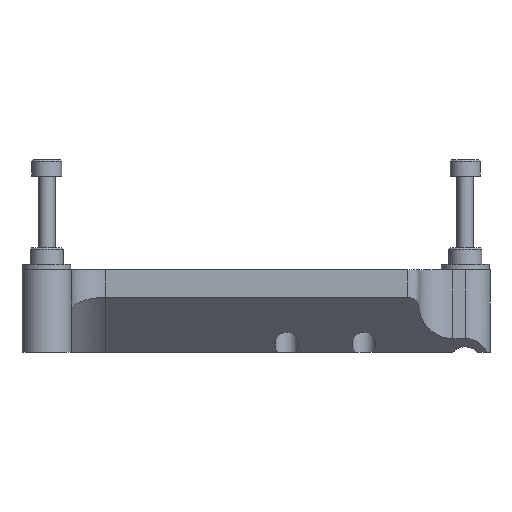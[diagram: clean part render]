
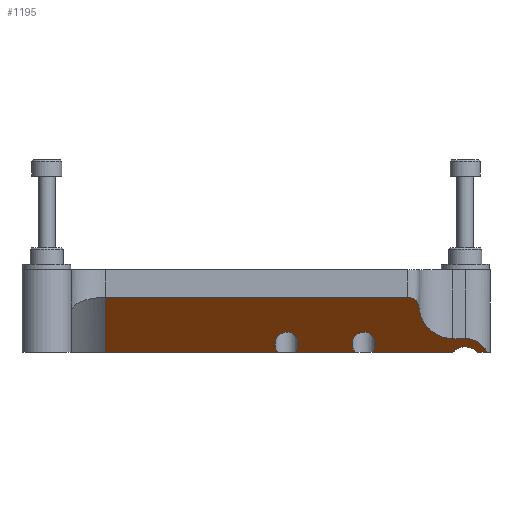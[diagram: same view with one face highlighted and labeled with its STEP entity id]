
A CAD part, left-side view. The second image highlights one B-rep face of the part: STEP entity #1195.
In plain terms, the highlighted planar face has unit normal (-0.707, 0, -0.707).
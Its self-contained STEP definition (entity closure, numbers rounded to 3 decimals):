
#537=ELLIPSE('',#8333,6.364,4.5);
#539=ELLIPSE('',#8360,3.041,2.15);
#540=ELLIPSE('',#8361,3.041,2.15);
#541=ELLIPSE('',#8362,4.243,3.);
#542=ELLIPSE('',#8363,8.768,6.2);
#543=ELLIPSE('',#8364,2.828,2.);
#764=FACE_OUTER_BOUND('',#3706,.T.);
#1195=ADVANCED_FACE('',(#764),#1619,.T.);
#1619=PLANE('',#8365);
#2065=LINE('',#11511,#2798);
#2066=LINE('',#11514,#2799);
#2067=LINE('',#11516,#2800);
#2068=LINE('',#11520,#2801);
#2069=LINE('',#11524,#2802);
#2070=LINE('',#11528,#2803);
#2071=LINE('',#11529,#2804);
#2798=VECTOR('',#9101,1.);
#2799=VECTOR('',#9102,1.);
#2800=VECTOR('',#9103,1.);
#2801=VECTOR('',#9106,1.);
#2802=VECTOR('',#9109,1.);
#2803=VECTOR('',#9112,1.);
#2804=VECTOR('',#9113,1.);
#3706=EDGE_LOOP('',(#4606,#4607,#4608,#4609,#4610,#4611,#4612,#4613,#4614,
#4615,#4616,#4617,#4618));
#4606=ORIENTED_EDGE('',*,*,#7461,.T.);
#4607=ORIENTED_EDGE('',*,*,#7462,.T.);
#4608=ORIENTED_EDGE('',*,*,#7463,.T.);
#4609=ORIENTED_EDGE('',*,*,#7464,.T.);
#4610=ORIENTED_EDGE('',*,*,#7465,.T.);
#4611=ORIENTED_EDGE('',*,*,#7466,.T.);
#4612=ORIENTED_EDGE('',*,*,#7467,.T.);
#4613=ORIENTED_EDGE('',*,*,#7468,.T.);
#4614=ORIENTED_EDGE('',*,*,#7469,.T.);
#4615=ORIENTED_EDGE('',*,*,#7159,.T.);
#4616=ORIENTED_EDGE('',*,*,#7470,.T.);
#4617=ORIENTED_EDGE('',*,*,#7471,.T.);
#4618=ORIENTED_EDGE('',*,*,#7472,.T.);
#6393=VERTEX_POINT('',#10593);
#6394=VERTEX_POINT('',#10595);
#6692=VERTEX_POINT('',#11512);
#6693=VERTEX_POINT('',#11513);
#6694=VERTEX_POINT('',#11515);
#6695=VERTEX_POINT('',#11517);
#6696=VERTEX_POINT('',#11519);
#6697=VERTEX_POINT('',#11521);
#6698=VERTEX_POINT('',#11523);
#6699=VERTEX_POINT('',#11525);
#6700=VERTEX_POINT('',#11527);
#6701=VERTEX_POINT('',#11530);
#6702=VERTEX_POINT('',#11532);
#7159=EDGE_CURVE('',#6394,#6393,#537,.T.);
#7461=EDGE_CURVE('',#6692,#6693,#2065,.T.);
#7462=EDGE_CURVE('',#6693,#6694,#2066,.T.);
#7463=EDGE_CURVE('',#6694,#6695,#2067,.T.);
#7464=EDGE_CURVE('',#6695,#6696,#539,.T.);
#7465=EDGE_CURVE('',#6696,#6697,#2068,.T.);
#7466=EDGE_CURVE('',#6697,#6698,#540,.T.);
#7467=EDGE_CURVE('',#6698,#6699,#2069,.T.);
#7468=EDGE_CURVE('',#6699,#6700,#541,.T.);
#7469=EDGE_CURVE('',#6700,#6394,#2070,.T.);
#7470=EDGE_CURVE('',#6393,#6701,#2071,.T.);
#7471=EDGE_CURVE('',#6701,#6702,#542,.T.);
#7472=EDGE_CURVE('',#6702,#6692,#543,.T.);
#8333=AXIS2_PLACEMENT_3D('',#10594,#8884,#8885);
#8360=AXIS2_PLACEMENT_3D('',#11518,#9104,#9105);
#8361=AXIS2_PLACEMENT_3D('',#11522,#9107,#9108);
#8362=AXIS2_PLACEMENT_3D('',#11526,#9110,#9111);
#8363=AXIS2_PLACEMENT_3D('',#11531,#9114,#9115);
#8364=AXIS2_PLACEMENT_3D('',#11533,#9116,#9117);
#8365=AXIS2_PLACEMENT_3D('',#11534,#9118,#9119);
#8884=DIRECTION('',(-0.707,0.,-0.707));
#8885=DIRECTION('',(-0.707,0.,0.707));
#9101=DIRECTION('',(0.,1.,0.));
#9102=DIRECTION('',(0.707,0.,-0.707));
#9103=DIRECTION('',(0.,-1.,0.));
#9104=DIRECTION('',(0.707,0.,0.707));
#9105=DIRECTION('',(-0.707,0.,0.707));
#9106=DIRECTION('',(0.,-1.,0.));
#9107=DIRECTION('',(0.707,0.,0.707));
#9108=DIRECTION('',(-0.707,0.,0.707));
#9109=DIRECTION('',(0.,-1.,0.));
#9110=DIRECTION('',(0.707,0.,0.707));
#9111=DIRECTION('',(-0.707,0.,0.707));
#9112=DIRECTION('',(0.,-1.,0.));
#9113=DIRECTION('',(0.,1.,0.));
#9114=DIRECTION('',(0.707,0.,0.707));
#9115=DIRECTION('',(-0.707,0.,0.707));
#9116=DIRECTION('',(-0.707,0.,-0.707));
#9117=DIRECTION('',(-0.707,0.,0.707));
#9118=DIRECTION('',(-0.707,0.,-0.707));
#9119=DIRECTION('',(-0.707,0.,0.707));
#10593=CARTESIAN_POINT('',(-484.787,8.331,178.69));
#10594=CARTESIAN_POINT('',(-480.287,8.331,174.19));
#10595=CARTESIAN_POINT('',(-482.287,4.3,176.19));
#11511=CARTESIAN_POINT('',(-492.287,79.831,186.19));
#11512=CARTESIAN_POINT('',(-492.287,18.731,186.19));
#11513=CARTESIAN_POINT('',(-492.287,73.631,186.19));
#11514=CARTESIAN_POINT('',(-502.287,73.631,196.19));
#11515=CARTESIAN_POINT('',(-482.287,73.631,176.19));
#11516=CARTESIAN_POINT('',(-482.287,79.831,176.19));
#11517=CARTESIAN_POINT('',(-482.287,42.271,176.19));
#11518=CARTESIAN_POINT('',(-483.787,40.731,177.69));
#11519=CARTESIAN_POINT('',(-482.287,39.191,176.19));
#11520=CARTESIAN_POINT('',(-482.287,79.831,176.19));
#11521=CARTESIAN_POINT('',(-482.287,28.271,176.19));
#11522=CARTESIAN_POINT('',(-483.787,26.731,177.69));
#11523=CARTESIAN_POINT('',(-482.287,25.191,176.19));
#11524=CARTESIAN_POINT('',(-482.287,79.831,176.19));
#11525=CARTESIAN_POINT('',(-482.287,10.567,176.19));
#11526=CARTESIAN_POINT('',(-480.287,8.331,174.19));
#11527=CARTESIAN_POINT('',(-482.287,6.095,176.19));
#11528=CARTESIAN_POINT('',(-482.287,79.831,176.19));
#11529=CARTESIAN_POINT('',(-484.787,79.831,178.69));
#11530=CARTESIAN_POINT('',(-484.787,10.561,178.69));
#11531=CARTESIAN_POINT('',(-490.987,10.561,184.89));
#11532=CARTESIAN_POINT('',(-490.458,16.738,184.361));
#11533=CARTESIAN_POINT('',(-490.287,18.731,184.19));
#11534=CARTESIAN_POINT('',(-502.287,79.831,196.19));
